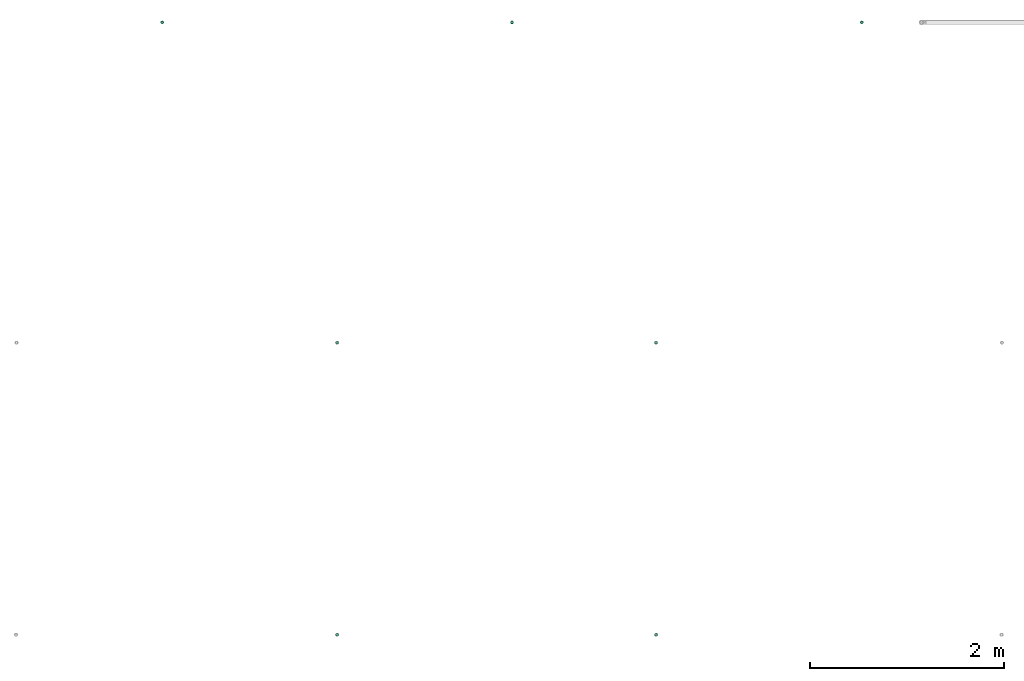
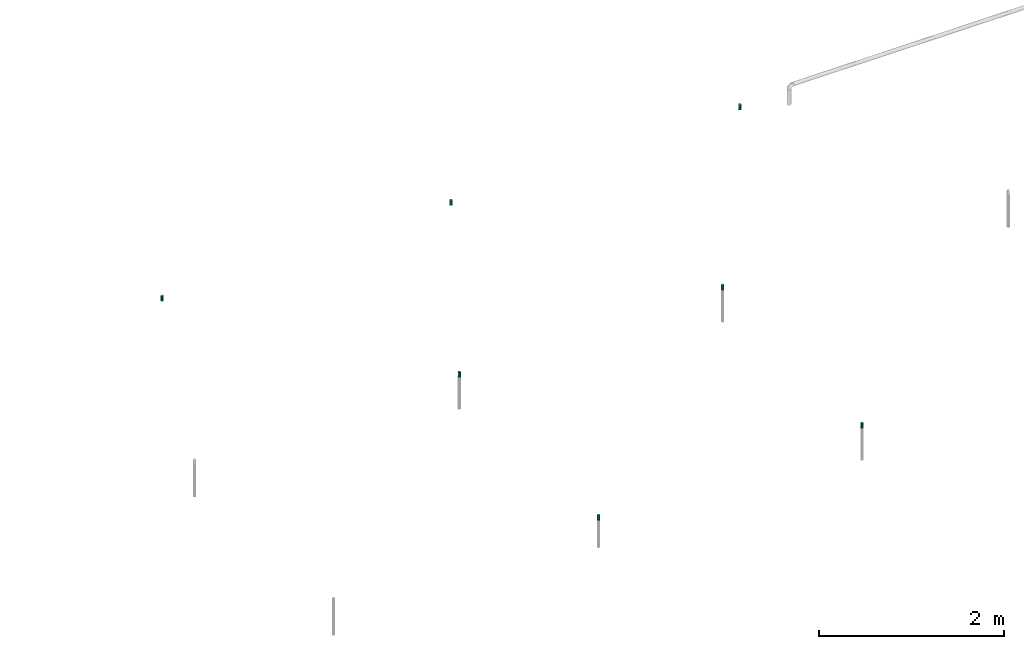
# One storey, part 6 of 14: 7 flow fittings, 7 flow terminals.
"""IFC2X3 building model written with IfcOpenShell, lengths in millimetres."""

from ifc_helpers import new_model, entity, si_unit, converted_unit, derived_unit, direction, frame, origin_with_axes, place, context, subcontext, project, spatial, open_shell, surface_model, source, transform, mapped, type_object, element, save


model = new_model("IFC2X3")

# Units and contexts
model_context = context("Model", 3, precision=0.01, world=frame((0.0, 4.29681676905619e-09, 0.0)), true_north=direction((4.01073788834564e-13, 1.0)))
plan_context = context("Plan", 3, precision=0.01, world=frame((0.0, 4.29681676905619e-09, 0.0)), true_north=direction((4.01073788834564e-13, 1.0)))
body_context = subcontext(model_context, "Body", "Model", "MODEL_VIEW")
ifc_project = project(units=[converted_unit("PLANEANGLEUNIT", "DEGREE", entity("IfcPositiveLengthMeasure", 0.0174532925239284), si_unit("PLANEANGLEUNIT", "RADIAN"), dimensions=[0, 0, 0, 0, 0, 0, 0]), si_unit("AREAUNIT", "SQUARE_METRE"), si_unit("LENGTHUNIT", "METRE", prefix="MILLI"), si_unit("MASSUNIT", "GRAM", prefix="KILO"), si_unit("POWERUNIT", "WATT"), si_unit("PRESSUREUNIT", "PASCAL", prefix="KILO"), si_unit("FORCEUNIT", "NEWTON", prefix="KILO"), si_unit("ELECTRICVOLTAGEUNIT", "VOLT"), si_unit("ELECTRICCURRENTUNIT", "AMPERE"), si_unit("THERMODYNAMICTEMPERATUREUNIT", "DEGREE_CELSIUS"), si_unit("TIMEUNIT", "SECOND"), si_unit("VOLUMEUNIT", "CUBIC_METRE"), derived_unit("LINEARVELOCITYUNIT", [(si_unit("LENGTHUNIT", "METRE"), 1), (si_unit("TIMEUNIT", "SECOND"), -1)]), derived_unit("VOLUMETRICFLOWRATEUNIT", [(si_unit("VOLUMEUNIT", "CUBIC_METRE"), 1), (si_unit("TIMEUNIT", "SECOND"), -1)]), derived_unit("THERMALTRANSMITTANCEUNIT", [(si_unit("POWERUNIT", "WATT"), 1), (si_unit("THERMODYNAMICTEMPERATUREUNIT", "KELVIN"), -1), (si_unit("AREAUNIT", "SQUARE_METRE"), -1)]), derived_unit("SOUNDPRESSUREUNIT", [(si_unit("PRESSUREUNIT", "PASCAL"), 1)])], contexts=[model_context, plan_context])

# Site, building, storey
site_placement = place(None, frame((0.0, -4.29681676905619e-09, 0.0), z_axis=(0.0, 0.0, 1.0), x_axis=(1.0, 0.0, 0.0)))
site = spatial("IfcSite", under=ifc_project, at=site_placement, CompositionType="ELEMENT")
building_placement = place(site_placement, frame((0.0, 4.29681676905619e-09, 0.0), z_axis=(0.0, 0.0, 1.0), x_axis=(1.0, 0.0, 0.0)))
building = spatial("IfcBuilding", under=site, at=building_placement, Name="mc-building", CompositionType="ELEMENT")
storey_placement = place(building_placement, frame((0.0, 0.0, 204000.0), z_axis=(0.0, 0.0, 1.0), x_axis=(1.0, 0.0, 0.0)))
storey = spatial("IfcBuildingStorey", under=building, at=storey_placement, Name="Nivå D", CompositionType="ELEMENT", Elevation=204000.0)

# Flow fittings
pipe_fitting_type = type_object("IfcPipeFittingType", Name="magi_pipe_fe_reducer_centric_short_NOR", PredefinedType="TRANSITION")
shared_shape_1 = source(origin_with_axes(), body_context, "Body", "SurfaceModel", [
    surface_model("IfcShellBasedSurfaceModel", [(14.4, 5.35, -9.26647), (14.4, 0.0, -10.7), (14.4, 2.76936, -10.33541), (14.4, 10.33541, -2.76936), (14.4, 7.56604, -7.56604), (14.4, -5.35, -9.26647), (14.4, 9.26647, -5.35), (14.4, -9.26647, 5.35), (14.4, -2.76936, -10.33541), (14.4, -7.56604, -7.56604), (14.4, -10.33541, -2.76936), (14.4, -9.26647, -5.35), (14.4, 10.33541, 2.76936), (14.4, 10.7, 0.0), (14.4, 9.26647, 5.35), (14.4, 7.56604, 7.56604), (14.4, 2.76936, 10.33541), (14.4, 0.0, 10.7), (14.4, 5.35, 9.26647), (14.4, -10.33541, 2.76936), (14.4, -10.7, 0.0), (14.4, -7.56604, 7.56604), (14.4, -2.76936, 10.33541), (14.4, -5.35, 9.26647), (12.4, 0.0, 10.7), (12.4, 2.76936, 10.33541), (12.4, 5.35, 9.26647), (12.4, 7.56604, 7.56604), (12.4, 9.26647, 5.35), (12.4, 10.33541, 2.76936), (12.4, -10.33541, 2.76936), (12.4, 10.33541, -2.76936), (12.4, -2.76936, 10.33541), (12.4, -7.56604, 7.56604), (12.4, -5.35, 9.26647), (12.4, -9.26647, 5.35), (12.4, -10.33541, -2.76936), (12.4, -10.7, 0.0), (12.4, 2.76936, -10.33541), (12.4, 9.26647, -5.35), (12.4, 7.56604, -7.56604), (12.4, 5.35, -9.26647), (12.4, -7.56604, -7.56604), (12.4, -9.26647, -5.35), (12.4, -5.35, -9.26647), (12.4, 0.0, -10.7), (12.4, -2.76936, -10.33541), (12.4, 10.7, 0.0), (-2.0, 11.9501, 11.9501), (-2.0, 0.0, 16.9), (-2.0, 4.37404, 16.32415), (-2.0, 8.45, 14.63583), (-2.0, 14.63583, 8.45), (-2.0, 16.32415, 4.37404), (-2.0, -16.32415, 4.37404), (-2.0, -8.45, 14.63583), (-2.0, -14.63583, 8.45), (-2.0, -11.9501, 11.9501), (-2.0, -4.37404, 16.32415), (-2.0, -16.32415, -4.37404), (-2.0, -16.9, 0.0), (-2.0, -8.45, -14.63583), (-2.0, 16.32415, -4.37404), (-2.0, 11.9501, -11.9501), (-2.0, 14.63583, -8.45), (-2.0, 8.45, -14.63583), (-2.0, 4.37404, -16.32415), (-2.0, 0.0, -16.9), (-2.0, -11.9501, -11.9501), (-2.0, -14.63583, -8.45), (-2.0, -4.37404, -16.32415), (-2.0, 16.9, 0.0), (0.0, 4.37404, -16.32415), (0.0, 8.45, -14.63583), (0.0, 11.9501, -11.9501), (0.0, 0.0, -16.9), (0.0, 16.32415, -4.37404), (0.0, 16.32415, 4.37404), (0.0, 14.63583, -8.45), (0.0, -8.45, -14.63583), (0.0, -4.37404, -16.32415), (0.0, -11.9501, -11.9501), (0.0, -16.32415, -4.37404), (0.0, -14.63583, -8.45), (0.0, -16.32415, 4.37404), (0.0, 16.9, 0.0), (0.0, 14.63583, 8.45), (0.0, 11.9501, 11.9501), (0.0, 4.37404, 16.32415), (0.0, 8.45, 14.63583), (0.0, 0.0, 16.9), (0.0, -14.63583, 8.45), (0.0, -16.9, 0.0), (0.0, -8.45, 14.63583), (0.0, -11.9501, 11.9501), (0.0, -4.37404, 16.32415), (12.4, 9.3625, -2.31662), (0.0, 14.42505, -5.97505), (0.0, 15.66253, -2.98753), (12.4, -6.6875, -6.94985), (0.0, -13.18758, -8.96258), (0.0, 2.98753, -15.66253), (12.4, 0.0, -9.26647), (12.4, 6.6875, -6.94985), (0.0, 8.96258, -13.18758), (12.4, -9.3625, -2.31662), (0.0, -15.66253, -2.98753), (0.0, -14.42505, -5.97505), (0.0, 5.97505, -14.42505), (0.0, -2.98753, -15.66253), (0.0, -8.96258, -13.18758), (0.0, 13.18758, -8.96258), (12.4, 8.025, -4.63324), (12.4, -2.675, -9.26647), (12.4, 2.675, -9.26647), (0.0, -5.97505, -14.42505), (12.4, -8.025, -4.63324), (12.4, -9.3625, 2.31662), (0.0, -14.42505, 5.97505), (0.0, -15.66253, 2.98753), (12.4, 6.6875, 6.94985), (0.0, 13.18758, 8.96258), (0.0, -2.98753, 15.66253), (12.4, 0.0, 9.26647), (12.4, -6.6875, 6.94985), (0.0, -8.96258, 13.18758), (12.4, 9.3625, 2.31662), (0.0, 15.66253, 2.98753), (0.0, 14.42505, 5.97505), (0.0, -5.97505, 14.42505), (0.0, 2.98753, 15.66253), (0.0, 8.96258, 13.18758), (0.0, -13.18758, 8.96258), (12.4, -8.025, 4.63324), (12.4, 2.675, 9.26647), (12.4, -2.675, 9.26647), (0.0, 5.97505, 14.42505), (12.4, 8.025, 4.63324)], [open_shell([[[0, 1, 2]], [[3, 0, 4]], [[5, 0, 3]], [[3, 4, 6]], [[7, 5, 3]], [[1, 5, 8]], [[1, 0, 5]], [[9, 10, 11]], [[10, 9, 5]], [[5, 7, 10]], [[12, 3, 13]], [[12, 14, 15]], [[3, 15, 7]], [[16, 17, 15]], [[16, 15, 18]], [[7, 15, 17]], [[10, 19, 20]], [[7, 19, 10]], [[21, 22, 23]], [[22, 21, 7]], [[17, 22, 7]], [[3, 12, 15]], [[24, 25, 26]], [[24, 26, 27]], [[27, 28, 29]], [[24, 27, 30]], [[31, 30, 27]], [[32, 33, 34]], [[33, 32, 30]], [[33, 30, 35]], [[32, 24, 30]], [[30, 36, 37]], [[31, 27, 29]], [[36, 30, 31]], [[38, 31, 39]], [[40, 41, 38]], [[40, 38, 39]], [[36, 31, 38]], [[36, 42, 43]], [[42, 36, 44]], [[44, 45, 46]], [[44, 36, 38]], [[38, 45, 44]], [[31, 29, 47]], [[36, 10, 37]], [[43, 11, 36]], [[5, 42, 44]], [[43, 42, 9]], [[8, 44, 46]], [[36, 11, 10]], [[10, 20, 37]], [[8, 5, 44]], [[9, 42, 5]], [[9, 11, 43]], [[1, 8, 46]], [[46, 45, 1]], [[38, 2, 45]], [[41, 0, 38]], [[6, 40, 39]], [[41, 40, 4]], [[3, 39, 31]], [[41, 4, 0]], [[0, 2, 38]], [[13, 3, 31]], [[6, 39, 3]], [[6, 4, 40]], [[47, 13, 31]], [[45, 2, 1]], [[29, 12, 47]], [[28, 14, 29]], [[18, 27, 26]], [[28, 27, 15]], [[16, 26, 25]], [[29, 14, 12]], [[12, 13, 47]], [[16, 18, 26]], [[15, 27, 18]], [[15, 14, 28]], [[17, 16, 25]], [[25, 24, 17]], [[32, 22, 24]], [[34, 23, 32]], [[7, 33, 35]], [[34, 33, 21]], [[19, 35, 30]], [[34, 21, 23]], [[23, 22, 32]], [[20, 19, 30]], [[7, 35, 19]], [[7, 21, 33]], [[37, 20, 30]], [[24, 22, 17]], [[48, 49, 50]], [[48, 50, 51]], [[48, 52, 53]], [[48, 53, 49]], [[49, 53, 54]], [[55, 56, 57]], [[55, 58, 49]], [[56, 55, 49]], [[49, 54, 56]], [[54, 59, 60]], [[54, 53, 61]], [[53, 62, 63]], [[63, 62, 64]], [[63, 65, 66]], [[61, 53, 63]], [[67, 63, 66]], [[59, 68, 69]], [[68, 59, 61]], [[61, 67, 70]], [[59, 54, 61]], [[63, 67, 61]], [[53, 71, 62]], [[72, 73, 74]], [[75, 72, 74]], [[74, 76, 77]], [[76, 74, 78]], [[74, 77, 79]], [[75, 79, 80]], [[75, 74, 79]], [[81, 82, 83]], [[82, 81, 79]], [[79, 84, 82]], [[77, 76, 85]], [[77, 86, 87]], [[77, 87, 88]], [[88, 84, 79]], [[88, 87, 89]], [[84, 88, 90]], [[90, 91, 84]], [[92, 82, 84]], [[91, 93, 94]], [[91, 90, 93]], [[93, 90, 95]], [[79, 77, 88]], [[59, 82, 60]], [[69, 83, 59]], [[79, 68, 61]], [[69, 68, 81]], [[80, 61, 70]], [[59, 83, 82]], [[82, 92, 60]], [[80, 79, 61]], [[81, 68, 79]], [[81, 83, 69]], [[75, 80, 70]], [[70, 67, 75]], [[66, 72, 67]], [[65, 73, 66]], [[78, 63, 64]], [[65, 63, 74]], [[76, 64, 62]], [[65, 74, 73]], [[73, 72, 66]], [[85, 76, 62]], [[78, 64, 76]], [[78, 74, 63]], [[71, 85, 62]], [[67, 72, 75]], [[53, 77, 71]], [[52, 86, 53]], [[89, 48, 51]], [[52, 48, 87]], [[88, 51, 50]], [[53, 86, 77]], [[77, 85, 71]], [[88, 89, 51]], [[87, 48, 89]], [[87, 86, 52]], [[90, 88, 50]], [[50, 49, 90]], [[58, 95, 49]], [[55, 93, 58]], [[91, 57, 56]], [[55, 57, 94]], [[84, 56, 54]], [[55, 94, 93]], [[93, 95, 58]], [[92, 84, 54]], [[91, 56, 84]], [[91, 94, 57]], [[60, 92, 54]], [[49, 95, 90]], [[26, 34, 47]], [[47, 34, 44]], [[44, 41, 47]], [[44, 34, 37]], [[90, 87, 92]], [[92, 94, 90]], [[87, 74, 92]], [[75, 92, 74]], [[81, 92, 75]], [[74, 87, 85]], [[96, 97, 98]], [[81, 99, 100]], [[101, 102, 75]], [[98, 85, 47]], [[74, 103, 104]], [[104, 103, 41]], [[105, 106, 107]], [[41, 108, 104]], [[102, 109, 75]], [[110, 99, 81]], [[47, 96, 98]], [[103, 111, 112]], [[109, 102, 113]], [[37, 92, 106]], [[102, 101, 114]], [[110, 115, 44]], [[96, 112, 97]], [[107, 116, 105]], [[37, 106, 105]], [[113, 115, 109]], [[44, 115, 113]], [[116, 107, 100]], [[108, 41, 114]], [[111, 103, 74]], [[111, 97, 112]], [[99, 110, 44]], [[116, 100, 99]], [[101, 108, 114]], [[117, 118, 119]], [[87, 120, 121]], [[122, 123, 90]], [[119, 92, 37]], [[94, 124, 125]], [[125, 124, 34]], [[126, 127, 128]], [[34, 129, 125]], [[123, 130, 90]], [[131, 120, 87]], [[37, 117, 119]], [[124, 132, 133]], [[130, 123, 134]], [[47, 85, 127]], [[123, 122, 135]], [[131, 136, 26]], [[117, 133, 118]], [[128, 137, 126]], [[47, 127, 126]], [[134, 136, 130]], [[26, 136, 134]], [[137, 128, 121]], [[129, 34, 135]], [[132, 124, 94]], [[132, 118, 133]], [[120, 131, 26]], [[137, 121, 120]], [[122, 129, 135]]])]),
])
for number, where, z_axis, x_axis, name in (
    (1, (593800.0, 576802.46783, 5958.64799999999), (0.0, 1.0, 0.0), (0.0, 0.0, 1.0), "magi_pipe_fe_reducer_centric_short_NOR"),
    (2, (590200.0, 576802.46783, 5958.64799999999), (0.0, 1.0, 0.0), (0.0, 0.0, 1.0), "magi_pipe_fe_reducer_centric_short_NOR"),
    (3, (597400.0, 576802.46783, 5958.64799999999), (0.0, 1.0, 0.0), (0.0, 0.0, 1.0), "magi_pipe_fe_reducer_centric_short_NOR"),
    (4, (592000.0, 573505.33925, 6323.54800000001), (0.0, 1.0, 0.0), (0.0, 0.0, 1.0), "magi_pipe_fe_reducer_centric_short_NOR"),
    (5, (595282.94288, 570500.0, 6323.848), (0.0, 1.0, 0.0), (0.0, 0.0, 1.0), "magi_pipe_fe_reducer_centric_short_NOR"),
    (6, (592000.0, 570500.0, 6260.64799999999), (0.0, 1.0, 0.0), (0.0, 0.0, 1.0), "magi_pipe_fe_reducer_centric_short_NOR"),
):
    element("IfcFlowFitting", number, at=place(storey_placement, frame(where, z_axis=z_axis, x_axis=x_axis)), inside=storey, type_object=pipe_fitting_type, Name=name, context=body_context, shape_type="MappedRepresentation", body=[
        mapped(shared_shape_1, transform((0.0, 0.0, 0.0), scale=1.0)),
    ])
shared_shape_2 = source(origin_with_axes(), body_context, "Body", "SurfaceModel", [
    surface_model("IfcShellBasedSurfaceModel", [(14.4, 4.37404, -16.32415), (14.4, 8.45, -14.63583), (14.4, 11.9501, -11.9501), (14.4, -8.45, -14.63583), (14.4, 16.32415, -4.37404), (14.4, 16.32415, 4.37404), (14.4, 14.63583, -8.45), (14.4, 0.0, -16.9), (14.4, -4.37404, -16.32415), (14.4, -11.9501, -11.9501), (14.4, -16.32415, -4.37404), (14.4, -14.63583, -8.45), (14.4, -16.32415, 4.37404), (14.4, 16.9, 0.0), (14.4, 14.63583, 8.45), (14.4, 11.9501, 11.9501), (14.4, 4.37404, 16.32415), (14.4, 8.45, 14.63583), (14.4, 0.0, 16.9), (14.4, -14.63583, 8.45), (14.4, -16.9, 0.0), (14.4, -8.45, 14.63583), (14.4, -11.9501, 11.9501), (14.4, -4.37404, 16.32415), (12.4, 4.37404, 16.32415), (12.4, -14.63583, 8.45), (12.4, 0.0, 16.9), (12.4, 16.32415, 4.37404), (12.4, 8.45, 14.63583), (12.4, 11.9501, 11.9501), (12.4, 14.63583, 8.45), (12.4, -8.45, 14.63583), (12.4, -11.9501, 11.9501), (12.4, -4.37404, 16.32415), (12.4, -16.32415, 4.37404), (12.4, -16.32415, -4.37404), (12.4, -16.9, 0.0), (12.4, -8.45, -14.63583), (12.4, 16.32415, -4.37404), (12.4, 11.9501, -11.9501), (12.4, 14.63583, -8.45), (12.4, 8.45, -14.63583), (12.4, 4.37404, -16.32415), (12.4, 0.0, -16.9), (12.4, -11.9501, -11.9501), (12.4, -14.63583, -8.45), (12.4, -4.37404, -16.32415), (12.4, 16.9, 0.0), (-2.0, 10.33541, 2.76936), (-2.0, 0.0, 10.7), (-2.0, 2.76936, 10.33541), (-2.0, 7.56604, 7.56604), (-2.0, 5.35, 9.26647), (-2.0, 9.26647, 5.35), (-2.0, -9.26647, 5.35), (-2.0, -2.76936, 10.33541), (-2.0, -7.56604, 7.56604), (-2.0, -5.35, 9.26647), (-2.0, -10.33541, 2.76936), (-2.0, -10.33541, -2.76936), (-2.0, -10.7, 0.0), (-2.0, 10.33541, -2.76936), (-2.0, 7.56604, -7.56604), (-2.0, 9.26647, -5.35), (-2.0, 5.35, -9.26647), (-2.0, -5.35, -9.26647), (-2.0, 2.76936, -10.33541), (-2.0, -7.56604, -7.56604), (-2.0, -9.26647, -5.35), (-2.0, 0.0, -10.7), (-2.0, -2.76936, -10.33541), (-2.0, 10.7, 0.0), (0.0, 5.35, -9.26647), (0.0, 0.0, -10.7), (0.0, 2.76936, -10.33541), (0.0, 10.33541, -2.76936), (0.0, 7.56604, -7.56604), (0.0, -5.35, -9.26647), (0.0, 9.26647, -5.35), (0.0, -9.26647, 5.35), (0.0, -2.76936, -10.33541), (0.0, -7.56604, -7.56604), (0.0, -10.33541, -2.76936), (0.0, -9.26647, -5.35), (0.0, 10.33541, 2.76936), (0.0, 10.7, 0.0), (0.0, 9.26647, 5.35), (0.0, 7.56604, 7.56604), (0.0, 2.76936, 10.33541), (0.0, 0.0, 10.7), (0.0, 5.35, 9.26647), (0.0, -10.33541, 2.76936), (0.0, -10.7, 0.0), (0.0, -7.56604, 7.56604), (0.0, -2.76936, 10.33541), (0.0, -5.35, 9.26647), (0.0, -9.3625, -2.31662), (12.4, -14.42505, -5.97505), (12.4, -15.66253, -2.98753), (0.0, 6.6875, -6.94985), (12.4, 8.96258, -13.18758), (0.0, -6.6875, -6.94985), (12.4, -8.96258, -13.18758), (0.0, 9.3625, -2.31662), (12.4, 15.66253, -2.98753), (12.4, 14.42505, -5.97505), (12.4, -5.97505, -14.42505), (12.4, 5.97505, -14.42505), (0.0, 2.675, -9.26647), (12.4, 13.18758, -8.96258), (0.0, -2.675, -9.26647), (12.4, -13.18758, -8.96258), (0.0, -8.025, -4.63324), (12.4, 2.98753, -15.66253), (0.0, 0.0, -9.26647), (12.4, -2.98753, -15.66253), (0.0, 8.025, -4.63324), (0.0, 9.3625, 2.31662), (12.4, 14.42505, 5.97505), (12.4, 15.66253, 2.98753), (0.0, -6.6875, 6.94985), (12.4, -8.96258, 13.18758), (0.0, 6.6875, 6.94985), (12.4, 8.96258, 13.18758), (0.0, -9.3625, 2.31662), (12.4, -15.66253, 2.98753), (12.4, -14.42505, 5.97505), (12.4, 5.97505, 14.42505), (12.4, -5.97505, 14.42505), (0.0, -2.675, 9.26647), (12.4, -13.18758, 8.96258), (0.0, 2.675, 9.26647), (12.4, 13.18758, 8.96258), (0.0, 8.025, 4.63324), (12.4, -2.98753, 15.66253), (0.0, 0.0, 9.26647), (12.4, 2.98753, 15.66253), (0.0, -8.025, 4.63324)], [open_shell([[[0, 1, 2]], [[3, 0, 2]], [[2, 4, 5]], [[4, 2, 6]], [[2, 5, 3]], [[7, 3, 8]], [[7, 0, 3]], [[9, 10, 11]], [[10, 9, 3]], [[3, 12, 10]], [[5, 4, 13]], [[5, 14, 15]], [[5, 15, 16]], [[16, 12, 3]], [[16, 15, 17]], [[12, 16, 18]], [[18, 19, 12]], [[20, 10, 12]], [[19, 21, 22]], [[19, 18, 21]], [[21, 18, 23]], [[3, 5, 16]], [[24, 25, 26]], [[27, 24, 28]], [[29, 30, 27]], [[29, 27, 28]], [[25, 24, 27]], [[31, 25, 32]], [[31, 33, 26]], [[26, 25, 31]], [[34, 25, 27]], [[34, 35, 36]], [[34, 27, 37]], [[27, 38, 39]], [[39, 38, 40]], [[39, 41, 42]], [[37, 27, 39]], [[42, 43, 39]], [[35, 44, 45]], [[44, 35, 37]], [[37, 43, 46]], [[35, 34, 37]], [[39, 43, 37]], [[38, 27, 47]], [[35, 10, 36]], [[45, 11, 35]], [[3, 44, 37]], [[45, 44, 9]], [[8, 37, 46]], [[35, 11, 10]], [[10, 20, 36]], [[8, 3, 37]], [[9, 44, 3]], [[9, 11, 45]], [[7, 8, 46]], [[46, 43, 7]], [[42, 0, 43]], [[41, 1, 42]], [[6, 39, 40]], [[41, 39, 2]], [[4, 40, 38]], [[41, 2, 1]], [[1, 0, 42]], [[13, 4, 38]], [[6, 40, 4]], [[6, 2, 39]], [[47, 13, 38]], [[43, 0, 7]], [[27, 5, 47]], [[30, 14, 27]], [[17, 29, 28]], [[30, 29, 15]], [[16, 28, 24]], [[27, 14, 5]], [[5, 13, 47]], [[16, 17, 28]], [[15, 29, 17]], [[15, 14, 30]], [[18, 16, 24]], [[24, 26, 18]], [[33, 23, 26]], [[31, 21, 33]], [[19, 32, 25]], [[31, 32, 22]], [[12, 25, 34]], [[31, 22, 21]], [[21, 23, 33]], [[20, 12, 34]], [[19, 25, 12]], [[19, 22, 32]], [[36, 20, 34]], [[26, 23, 18]], [[48, 49, 50]], [[51, 50, 52]], [[51, 53, 48]], [[51, 48, 50]], [[49, 48, 54]], [[55, 56, 57]], [[56, 55, 54]], [[58, 59, 60]], [[54, 55, 49]], [[58, 54, 59]], [[54, 48, 61]], [[59, 54, 61]], [[62, 61, 63]], [[59, 62, 64]], [[61, 62, 59]], [[65, 64, 66]], [[59, 67, 68]], [[67, 59, 65]], [[65, 69, 70]], [[65, 59, 64]], [[66, 69, 65]], [[61, 48, 71]], [[72, 73, 74]], [[75, 72, 76]], [[77, 72, 75]], [[75, 76, 78]], [[79, 77, 75]], [[73, 77, 80]], [[73, 72, 77]], [[81, 82, 83]], [[82, 81, 77]], [[77, 79, 82]], [[84, 75, 85]], [[84, 86, 87]], [[75, 87, 79]], [[88, 89, 87]], [[88, 87, 90]], [[79, 87, 89]], [[82, 91, 92]], [[79, 91, 82]], [[93, 94, 95]], [[94, 93, 79]], [[89, 94, 79]], [[75, 84, 87]], [[59, 82, 60]], [[68, 83, 59]], [[77, 67, 65]], [[68, 67, 81]], [[80, 65, 70]], [[59, 83, 82]], [[82, 92, 60]], [[80, 77, 65]], [[81, 67, 77]], [[81, 83, 68]], [[73, 80, 70]], [[70, 69, 73]], [[66, 74, 69]], [[64, 72, 66]], [[78, 62, 63]], [[64, 62, 76]], [[75, 63, 61]], [[64, 76, 72]], [[72, 74, 66]], [[85, 75, 61]], [[78, 63, 75]], [[78, 76, 62]], [[71, 85, 61]], [[69, 74, 73]], [[48, 84, 71]], [[53, 86, 48]], [[90, 51, 52]], [[53, 51, 87]], [[88, 52, 50]], [[48, 86, 84]], [[84, 85, 71]], [[88, 90, 52]], [[87, 51, 90]], [[87, 86, 53]], [[89, 88, 50]], [[50, 49, 89]], [[55, 94, 49]], [[57, 95, 55]], [[79, 56, 54]], [[57, 56, 93]], [[91, 54, 58]], [[57, 93, 95]], [[95, 94, 55]], [[92, 91, 58]], [[79, 54, 91]], [[79, 93, 56]], [[60, 92, 58]], [[49, 94, 89]], [[29, 26, 39]], [[39, 47, 29]], [[36, 26, 32]], [[36, 44, 43]], [[43, 39, 36]], [[36, 39, 26]], [[92, 95, 77]], [[85, 95, 90]], [[85, 72, 77]], [[85, 77, 95]], [[96, 97, 98]], [[92, 96, 98]], [[99, 100, 72]], [[98, 36, 92]], [[44, 101, 102]], [[101, 77, 102]], [[103, 104, 105]], [[85, 47, 104]], [[77, 106, 102]], [[107, 108, 72]], [[109, 39, 99]], [[106, 77, 110]], [[101, 111, 112]], [[113, 114, 108]], [[100, 99, 39]], [[110, 115, 106]], [[99, 116, 109]], [[100, 107, 72]], [[96, 112, 97]], [[105, 116, 103]], [[85, 104, 103]], [[108, 107, 113]], [[113, 43, 114]], [[116, 105, 109]], [[114, 115, 110]], [[43, 115, 114]], [[111, 101, 44]], [[111, 97, 112]], [[117, 118, 119]], [[85, 117, 119]], [[120, 121, 95]], [[119, 47, 85]], [[29, 122, 123]], [[122, 90, 123]], [[124, 125, 126]], [[92, 36, 125]], [[90, 127, 123]], [[128, 129, 95]], [[130, 32, 120]], [[127, 90, 131]], [[122, 132, 133]], [[134, 135, 129]], [[121, 120, 32]], [[131, 136, 127]], [[120, 137, 130]], [[121, 128, 95]], [[117, 133, 118]], [[126, 137, 124]], [[92, 125, 124]], [[129, 128, 134]], [[134, 26, 135]], [[137, 126, 130]], [[135, 136, 131]], [[26, 136, 135]], [[132, 122, 29]], [[132, 118, 133]]])]),
])
flow_fitting_placement = place(storey_placement, frame((595282.4709, 573505.33925, 6335.93031), z_axis=(0.0, 1.0, 0.0), x_axis=(0.0, 0.0, -1.0)))
element("IfcFlowFitting", 7, at=flow_fitting_placement, inside=storey, type_object=pipe_fitting_type, Name="magi_pipe_fe_reducer_centric_short_NOR", context=body_context, shape_type="MappedRepresentation", body=[
    mapped(shared_shape_2, transform((0.0, 0.0, 0.0), scale=1.0)),
])

# Flow terminals
fire_suppression_terminal_type = type_object("IfcFireSuppressionTerminalType", Name="SP-15-K80-68DGR-STD-STÅENDE", PredefinedType="NOTDEFINED")
shared_shape_3 = source(origin_with_axes(), body_context, "Body", "SurfaceModel", [
    surface_model("IfcShellBasedSurfaceModel", [(4.1411, -15.45481, 53.0), (8.0, -13.85641, 53.0), (11.31371, -11.31371, 53.0), (-8.0, -13.85641, 53.0), (15.45481, -4.1411, 53.0), (16.0, 0.0, 53.0), (13.85641, -8.0, 53.0), (0.0, -16.0, 53.0), (-4.1411, -15.45481, 53.0), (-13.85641, -8.0, 53.0), (-11.31371, -11.31371, 53.0), (-15.45481, -4.1411, 53.0), (15.45481, 4.1411, 53.0), (13.85641, 8.0, 53.0), (11.31371, 11.31371, 53.0), (-4.1411, 15.45481, 53.0), (8.0, 13.85641, 53.0), (4.1411, 15.45481, 53.0), (0.0, 16.0, 53.0), (-13.85641, 8.0, 53.0), (-15.45481, 4.1411, 53.0), (-16.0, 0.0, 53.0), (-11.31371, 11.31371, 53.0), (-8.0, 13.85641, 53.0), (0.0, 16.0, 0.0), (4.1411, 15.45481, 0.0), (8.0, 13.85641, 0.0), (-4.1411, 15.45481, 0.0), (11.31371, 11.31371, 0.0), (13.85641, 8.0, 0.0), (15.45481, 4.1411, 0.0), (-15.45481, -4.1411, 0.0), (-11.31371, 11.31371, 0.0), (-8.0, 13.85641, 0.0), (-13.85641, 8.0, 0.0), (-15.45481, 4.1411, 0.0), (-16.0, 0.0, 0.0), (4.1411, -15.45481, 0.0), (16.0, 0.0, 0.0), (15.45481, -4.1411, 0.0), (13.85641, -8.0, 0.0), (11.31371, -11.31371, 0.0), (8.0, -13.85641, 0.0), (-8.0, -13.85641, 0.0), (-13.85641, -8.0, 0.0), (-11.31371, -11.31371, 0.0), (0.0, -16.0, 0.0), (-4.1411, -15.45481, 0.0)], [open_shell([[[0, 1, 2]], [[3, 0, 2]], [[4, 5, 2]], [[4, 2, 6]], [[3, 2, 5]], [[7, 3, 8]], [[7, 0, 3]], [[3, 9, 10]], [[9, 3, 11]], [[5, 11, 3]], [[5, 12, 11]], [[12, 13, 14]], [[15, 12, 14]], [[16, 17, 18]], [[14, 16, 15]], [[18, 15, 16]], [[11, 19, 20]], [[21, 11, 20]], [[22, 15, 23]], [[15, 22, 19]], [[19, 11, 15]], [[11, 12, 15]], [[24, 25, 26]], [[27, 24, 26]], [[28, 29, 30]], [[27, 26, 28]], [[27, 28, 31]], [[27, 32, 33]], [[32, 27, 34]], [[34, 31, 35]], [[31, 34, 27]], [[35, 31, 36]], [[28, 30, 31]], [[37, 38, 39]], [[37, 39, 40]], [[41, 42, 37]], [[41, 37, 40]], [[38, 37, 43]], [[44, 43, 45]], [[43, 44, 31]], [[43, 46, 47]], [[43, 31, 38]], [[37, 46, 43]], [[38, 31, 30]], [[11, 31, 44]], [[45, 9, 44]], [[3, 43, 47]], [[45, 43, 10]], [[8, 47, 46]], [[31, 21, 36]], [[31, 11, 21]], [[44, 9, 11]], [[45, 10, 9]], [[3, 10, 43]], [[47, 8, 3]], [[46, 7, 8]], [[0, 37, 42]], [[41, 1, 42]], [[6, 40, 39]], [[41, 40, 2]], [[4, 39, 38]], [[37, 0, 7]], [[42, 1, 0]], [[41, 2, 1]], [[40, 6, 2]], [[4, 6, 39]], [[38, 5, 4]], [[37, 7, 46]], [[12, 38, 30]], [[13, 30, 29]], [[16, 26, 25]], [[17, 25, 24]], [[30, 13, 12]], [[12, 5, 38]], [[28, 14, 13]], [[28, 26, 14]], [[14, 26, 16]], [[25, 17, 16]], [[28, 13, 29]], [[24, 18, 17]], [[15, 27, 33]], [[32, 23, 33]], [[19, 34, 35]], [[32, 34, 22]], [[20, 35, 36]], [[27, 15, 18]], [[33, 23, 15]], [[32, 22, 23]], [[34, 19, 22]], [[20, 19, 35]], [[36, 21, 20]], [[27, 18, 24]]])]),
])
for number, where, z_axis, x_axis in (
    (8, (590200.0, 576802.46783, 5968.0), (0.0, 0.0, 1.0), (1.0, 0.0, 0.0)),
    (9, (593800.0, 576802.46783, 5968.0), (0.0, 0.0, 1.0), (1.0, 0.0, 0.0)),
    (10, (597400.0, 576802.46783, 5968.0), (0.0, 0.0, 1.0), (1.0, 0.0, 0.0)),
    (11, (592000.0, 573505.33925, 6332.89999999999), (0.0, 0.0, 1.0), (1.0, 0.0, 0.0)),
    (12, (592000.0, 570500.0, 6270.0), (0.0, 0.0, 1.0), (1.0, 0.0, 0.0)),
    (13, (595282.94288, 570500.0, 6333.20000000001), (0.0, 0.0, 1.0), (1.0, 0.0, 0.0)),
    (14, (595282.4709, 573505.33925, 6332.88230999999), (0.0, 0.0, 1.0), (1.0, 0.0, 0.0)),
):
    element("IfcFlowTerminal", number, at=place(storey_placement, frame(where, z_axis=z_axis, x_axis=x_axis)), inside=storey, type_object=fire_suppression_terminal_type, Name="SP-15-K80-68DGR-STD-STÅENDE", context=body_context, shape_type="MappedRepresentation", body=[
        mapped(shared_shape_3, transform((0.0, 0.0, 0.0), scale=1.0)),
    ])

save(model, "model.ifc")
